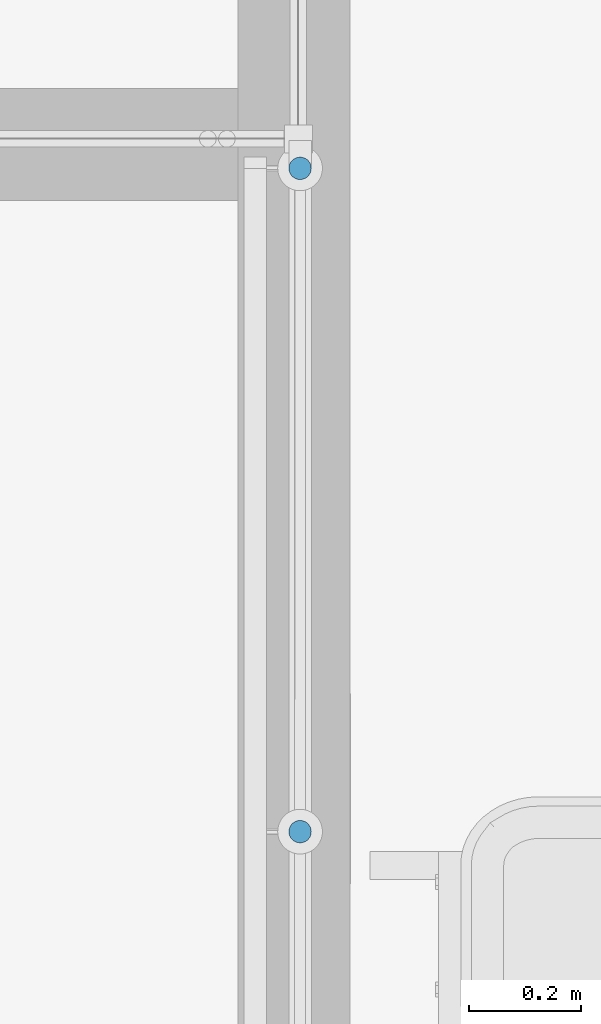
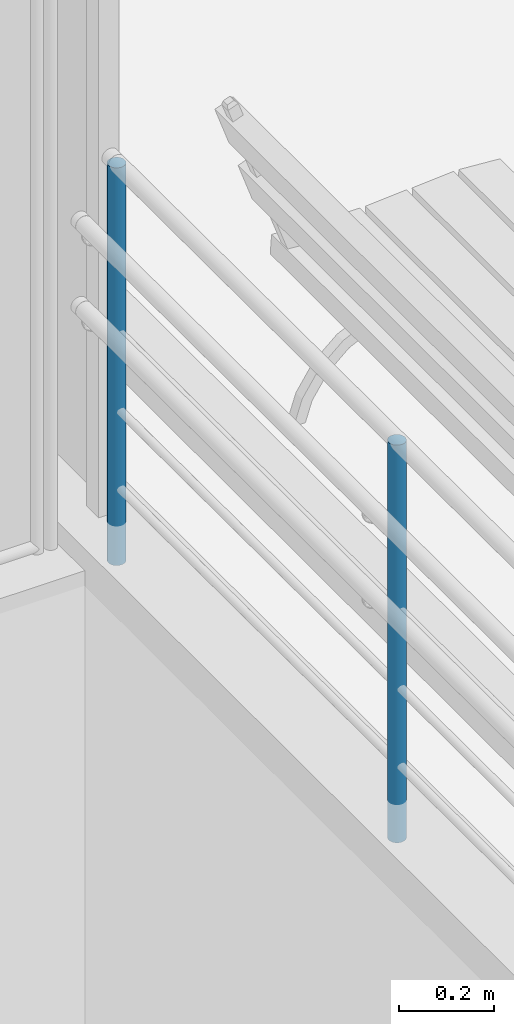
# One storey, part 72 of 237: 2 building element parts, 1 element without a shape of its own.
"""IFC2X3 building model written with IfcOpenShell, lengths in millimetres."""

from ifc_helpers import new_model, entity, si_unit, converted_unit, derived_unit, money_unit, direction, frame, origin_with_axes, place, context, subcontext, project, spatial, faceted_brep, material, type_object, element, aggregate, save


model = new_model("IFC2X3")

# Units and contexts
model_context = context("Model", 3, precision=0.01, world=origin_with_axes(), true_north=direction((0.0, 1.0)))
body_context = subcontext(model_context, "Body", "Model", "MODEL_VIEW")
ifc_project = project(units=[si_unit("LENGTHUNIT", "METRE", prefix="MILLI"), si_unit("AREAUNIT", "SQUARE_METRE"), si_unit("VOLUMEUNIT", "CUBIC_METRE"), converted_unit("PLANEANGLEUNIT", "DEGREE", entity("IfcPlaneAngleMeasure", 0.0174532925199), si_unit("PLANEANGLEUNIT", "RADIAN"), dimensions=[0, 0, 0, 0, 0, 0, 0]), money_unit("USD"), converted_unit("TIMEUNIT", "Year", entity("IfcTimeMeasure", 31556926.0), si_unit("TIMEUNIT", "SECOND"), dimensions=[0, 0, 1, 0, 0, 0, 0]), si_unit("MASSUNIT", "GRAM", prefix="KILO"), si_unit("THERMODYNAMICTEMPERATUREUNIT", "DEGREE_CELSIUS"), si_unit("LUMINOUSINTENSITYUNIT", "LUMEN"), si_unit("ENERGYUNIT", "JOULE", prefix="MEGA"), derived_unit("THERMALCONDUCTANCEUNIT", [(si_unit("POWERUNIT", "WATT"), 1), (si_unit("LENGTHUNIT", "METRE"), -1), (si_unit("THERMODYNAMICTEMPERATUREUNIT", "KELVIN"), -1)]), derived_unit("SPECIFICHEATCAPACITYUNIT", [(si_unit("ENERGYUNIT", "JOULE"), 1), (si_unit("MASSUNIT", "GRAM", prefix="KILO"), -1), (si_unit("THERMODYNAMICTEMPERATUREUNIT", "KELVIN"), -1)]), derived_unit("MASSDENSITYUNIT", [(si_unit("MASSUNIT", "GRAM", prefix="KILO"), 1), (si_unit("VOLUMEUNIT", "CUBIC_METRE"), -1)])], contexts=[model_context])

# Site, building, storey
site_placement = place(None, origin_with_axes())
site = spatial("IfcSite", under=ifc_project, at=site_placement, Name="Local", CompositionType="ELEMENT")
building_placement = place(site_placement, origin_with_axes())
building = spatial("IfcBuilding", under=site, at=building_placement, Name="Construção", CompositionType="ELEMENT")
storey_placement = place(building_placement, origin_with_axes())
storey = spatial("IfcBuildingStorey", under=building, at=storey_placement, Name="Pavimento Térreo", CompositionType="ELEMENT", Elevation=0.0)

# Railing, building element parts
railing_type = type_object("IfcRailingType", Name="Tipo de Guarda-Corpo", PredefinedType="NOTDEFINED")
railing_placement = place(storey_placement, frame((84562.8908804, 21657.2175927, -4868.39227091), z_axis=(0.0, 0.0, 1.0), x_axis=(1.0, 0.0, 0.0)))
railing = element("IfcRailing", 1, at=railing_placement, inside=storey, type_object=railing_type, Name="Guarda-Corpo - 002", PredefinedType="NOTDEFINED")
ifc_material = material(Name="Aço - Inoxidável")
building_element_part_1_placement = place(railing_placement, origin_with_axes())
building_element_part_1 = element("IfcBuildingElementPart", 2, at=building_element_part_1_placement, material=ifc_material, Name="Aço - Inoxidável", context=body_context, shape_type="Brep", body=[
    faceted_brep([(2130.19632421, 5588.77530866, 1353.38425594), (2130.50016915, 5592.24827221, 1353.38425594), (2130.50016915, 5592.24827221, 2378.38425594), (2130.19632421, 5588.77530866, 2378.39407232), (2130.19632421, 5595.72123576, 1353.38425594), (2129.29402157, 5585.40786934, 1353.38425594), (2127.82067723, 5582.24827221, 1353.38425594), (2125.82105801, 5579.39252002, 1353.38425594), (2123.35592134, 5576.92738335, 1353.38425594), (2120.50016915, 5574.92776413, 1353.38425594), (2117.34057202, 5573.45441979, 1353.38425594), (2113.9731327, 5572.55211715, 1353.38425594), (2110.50016915, 5572.24827221, 1353.38425594), (2107.0272056, 5572.55211715, 1353.38425594), (2103.65976628, 5573.45441979, 1353.38425594), (2100.50016915, 5574.92776413, 1353.38425594), (2097.64441696, 5576.92738335, 1353.38425594), (2095.17928029, 5579.39252002, 1353.38425594), (2093.17966108, 5582.24827221, 1353.38425594), (2091.70631674, 5585.40786934, 1353.38425594), (2090.80401409, 5588.77530866, 1353.38425594), (2090.50016915, 5592.24827221, 1353.38425594), (2090.80401409, 5595.72123576, 1353.38425594), (2091.70631674, 5599.08867508, 1353.38425594), (2093.17966108, 5602.24827221, 1353.38425594), (2095.17928029, 5605.1040244, 1353.38425594), (2097.64441696, 5607.56916107, 1353.38425594), (2100.50016915, 5609.56878029, 1353.38425594), (2103.65976628, 5611.04212463, 1353.38425594), (2107.0272056, 5611.94442727, 1353.38425594), (2110.50016915, 5612.24827221, 1353.38425594), (2113.9731327, 5611.94442727, 1353.38425594), (2117.34057202, 5611.04212463, 1353.38425594), (2120.50016915, 5609.56878029, 1353.38425594), (2123.35592134, 5607.56916107, 1353.38425594), (2125.82105801, 5605.1040244, 1353.38425594), (2127.82067723, 5602.24827221, 1353.38425594), (2129.29402157, 5599.08867508, 1353.38425594), (2130.19632421, 5595.72123576, 2378.37443957), (2107.0272056, 5572.55211715, 2378.43992736), (2110.50016915, 5572.24827221, 2378.44078619), (2113.9731327, 5572.55211715, 2378.43992736), (2117.34057202, 5573.45441979, 2378.43737699), (2120.50016915, 5574.92776413, 2378.43321257), (2123.35592134, 5576.92738335, 2378.42756062), (2125.82105801, 5579.39252002, 2378.42059288), (2127.82067723, 5582.24827221, 2378.41252106), (2129.29402157, 5585.40786934, 2378.40359043), (2129.29402157, 5599.08867508, 2378.36492146), (2127.82067723, 5602.24827221, 2378.35599082), (2125.82105801, 5605.1040244, 2378.34791901), (2123.35592134, 5607.56916107, 2378.34095127), (2120.50016915, 5609.56878029, 2378.33529932), (2117.34057202, 5611.04212463, 2378.3311349), (2113.9731327, 5611.94442727, 2378.32858453), (2110.50016915, 5612.24827221, 2378.3277257), (2107.0272056, 5611.94442727, 2378.32858453), (2103.65976628, 5611.04212463, 2378.3311349), (2100.50016915, 5609.56878029, 2378.33529932), (2097.64441696, 5607.56916107, 2378.34095127), (2095.17928029, 5605.1040244, 2378.34791901), (2093.17966108, 5602.24827221, 2378.35599082), (2091.70631674, 5599.08867508, 2378.36492146), (2090.80401409, 5595.72123576, 2378.37443957), (2090.50016915, 5592.24827221, 2378.38425594), (2090.80401409, 5588.77530866, 2378.39407232), (2091.70631674, 5585.40786934, 2378.40359043), (2093.17966108, 5582.24827221, 2378.41252106), (2095.17928029, 5579.39252002, 2378.42059288), (2097.64441696, 5576.92738335, 2378.42756062), (2100.50016915, 5574.92776413, 2378.43321257), (2103.65976628, 5573.45441979, 2378.43737699)], [[[0, 1, 2, 3]], [[4, 1, 0, 5, 6, 7, 8, 9, 10, 11, 12, 13, 14, 15, 16, 17, 18, 19, 20, 21, 22, 23, 24, 25, 26, 27, 28, 29, 30, 31, 32, 33, 34, 35, 36, 37]], [[1, 4, 38, 2]], [[39, 40, 41, 42, 43, 44, 45, 46, 47, 3, 2, 38, 48, 49, 50, 51, 52, 53, 54, 55, 56, 57, 58, 59, 60, 61, 62, 63, 64, 65, 66, 67, 68, 69, 70, 71]], [[5, 0, 3, 47]], [[6, 5, 47, 46]], [[7, 6, 46, 45]], [[8, 7, 45, 44]], [[9, 8, 44, 43]], [[10, 9, 43, 42]], [[11, 10, 42, 41]], [[12, 11, 41, 40]], [[13, 12, 40, 39]], [[14, 13, 39, 71]], [[15, 14, 71, 70]], [[16, 15, 70, 69]], [[17, 16, 69, 68]], [[18, 17, 68, 67]], [[19, 18, 67, 66]], [[20, 19, 66, 65]], [[21, 20, 65, 64]], [[22, 21, 64, 63]], [[23, 22, 63, 62]], [[24, 23, 62, 61]], [[25, 24, 61, 60]], [[26, 25, 60, 59]], [[27, 26, 59, 58]], [[28, 27, 58, 57]], [[29, 28, 57, 56]], [[30, 29, 56, 55]], [[31, 30, 55, 54]], [[32, 31, 54, 53]], [[33, 32, 53, 52]], [[34, 33, 52, 51]], [[35, 34, 51, 50]], [[36, 35, 50, 49]], [[37, 36, 49, 48]], [[4, 37, 48, 38]]]),
])
building_element_part_2_placement = place(railing_placement, origin_with_axes())
building_element_part_2 = element("IfcBuildingElementPart", 3, at=building_element_part_2_placement, material=ifc_material, Name="Aço - Inoxidável", context=body_context, shape_type="Brep", body=[
    faceted_brep([(2130.19632421, 4404.63973695, 1356.73122937), (2130.50016915, 4408.1127005, 1356.73122937), (2130.50016915, 4408.1127005, 2381.73122937), (2130.19632421, 4404.63973695, 2381.74104574), (2130.19632421, 4411.58566405, 1356.73122937), (2129.29402157, 4401.27229763, 1356.73122937), (2127.82067723, 4398.1127005, 1356.73122937), (2125.82105801, 4395.2569483, 1356.73122937), (2123.35592134, 4392.79181164, 1356.73122937), (2120.50016915, 4390.79219242, 1356.73122937), (2117.34057202, 4389.31884808, 1356.73122937), (2113.9731327, 4388.41654544, 1356.73122937), (2110.50016915, 4388.1127005, 1356.73122937), (2107.0272056, 4388.41654544, 1356.73122937), (2103.65976628, 4389.31884808, 1356.73122937), (2100.50016915, 4390.79219242, 1356.73122937), (2097.64441696, 4392.79181164, 1356.73122937), (2095.17928029, 4395.2569483, 1356.73122937), (2093.17966108, 4398.1127005, 1356.73122937), (2091.70631674, 4401.27229763, 1356.73122937), (2090.80401409, 4404.63973695, 1356.73122937), (2090.50016915, 4408.1127005, 1356.73122937), (2090.80401409, 4411.58566405, 1356.73122937), (2091.70631674, 4414.95310336, 1356.73122937), (2093.17966108, 4418.1127005, 1356.73122937), (2095.17928029, 4420.96845269, 1356.73122937), (2097.64441696, 4423.43358936, 1356.73122937), (2100.50016915, 4425.43320857, 1356.73122937), (2103.65976628, 4426.90655291, 1356.73122937), (2107.0272056, 4427.80885556, 1356.73122937), (2110.50016915, 4428.1127005, 1356.73122937), (2113.9731327, 4427.80885556, 1356.73122937), (2117.34057202, 4426.90655291, 1356.73122937), (2120.50016915, 4425.43320857, 1356.73122937), (2123.35592134, 4423.43358936, 1356.73122937), (2125.82105801, 4420.96845269, 1356.73122937), (2127.82067723, 4418.1127005, 1356.73122937), (2129.29402157, 4414.95310336, 1356.73122937), (2130.19632421, 4411.58566405, 2381.72141299), (2107.0272056, 4388.41654544, 2381.78690079), (2110.50016915, 4388.1127005, 2381.78775961), (2113.9731327, 4388.41654544, 2381.78690079), (2117.34057202, 4389.31884808, 2381.78435042), (2120.50016915, 4390.79219242, 2381.78018599), (2123.35592134, 4392.79181164, 2381.77453404), (2125.82105801, 4395.2569483, 2381.76756631), (2127.82067723, 4398.1127005, 2381.75949449), (2129.29402157, 4401.27229763, 2381.75056385), (2129.29402157, 4414.95310336, 2381.71189489), (2127.82067723, 4418.1127005, 2381.70296425), (2125.82105801, 4420.96845269, 2381.69489243), (2123.35592134, 4423.43358936, 2381.68792469), (2120.50016915, 4425.43320857, 2381.68227274), (2117.34057202, 4426.90655291, 2381.67810832), (2113.9731327, 4427.80885556, 2381.67555795), (2110.50016915, 4428.1127005, 2381.67469913), (2107.0272056, 4427.80885556, 2381.67555795), (2103.65976628, 4426.90655291, 2381.67810832), (2100.50016915, 4425.43320857, 2381.68227274), (2097.64441696, 4423.43358936, 2381.68792469), (2095.17928029, 4420.96845269, 2381.69489243), (2093.17966108, 4418.1127005, 2381.70296425), (2091.70631674, 4414.95310336, 2381.71189489), (2090.80401409, 4411.58566405, 2381.72141299), (2090.50016915, 4408.1127005, 2381.73122937), (2090.80401409, 4404.63973695, 2381.74104574), (2091.70631674, 4401.27229763, 2381.75056385), (2093.17966108, 4398.1127005, 2381.75949449), (2095.17928029, 4395.2569483, 2381.76756631), (2097.64441696, 4392.79181164, 2381.77453404), (2100.50016915, 4390.79219242, 2381.78018599), (2103.65976628, 4389.31884808, 2381.78435042)], [[[0, 1, 2, 3]], [[4, 1, 0, 5, 6, 7, 8, 9, 10, 11, 12, 13, 14, 15, 16, 17, 18, 19, 20, 21, 22, 23, 24, 25, 26, 27, 28, 29, 30, 31, 32, 33, 34, 35, 36, 37]], [[1, 4, 38, 2]], [[39, 40, 41, 42, 43, 44, 45, 46, 47, 3, 2, 38, 48, 49, 50, 51, 52, 53, 54, 55, 56, 57, 58, 59, 60, 61, 62, 63, 64, 65, 66, 67, 68, 69, 70, 71]], [[5, 0, 3, 47]], [[6, 5, 47, 46]], [[7, 6, 46, 45]], [[8, 7, 45, 44]], [[9, 8, 44, 43]], [[10, 9, 43, 42]], [[11, 10, 42, 41]], [[12, 11, 41, 40]], [[13, 12, 40, 39]], [[14, 13, 39, 71]], [[15, 14, 71, 70]], [[16, 15, 70, 69]], [[17, 16, 69, 68]], [[18, 17, 68, 67]], [[19, 18, 67, 66]], [[20, 19, 66, 65]], [[21, 20, 65, 64]], [[22, 21, 64, 63]], [[23, 22, 63, 62]], [[24, 23, 62, 61]], [[25, 24, 61, 60]], [[26, 25, 60, 59]], [[27, 26, 59, 58]], [[28, 27, 58, 57]], [[29, 28, 57, 56]], [[30, 29, 56, 55]], [[31, 30, 55, 54]], [[32, 31, 54, 53]], [[33, 32, 53, 52]], [[34, 33, 52, 51]], [[35, 34, 51, 50]], [[36, 35, 50, 49]], [[37, 36, 49, 48]], [[4, 37, 48, 38]]]),
])
aggregate(railing, [building_element_part_1, building_element_part_2])

save(model, "model.ifc")
